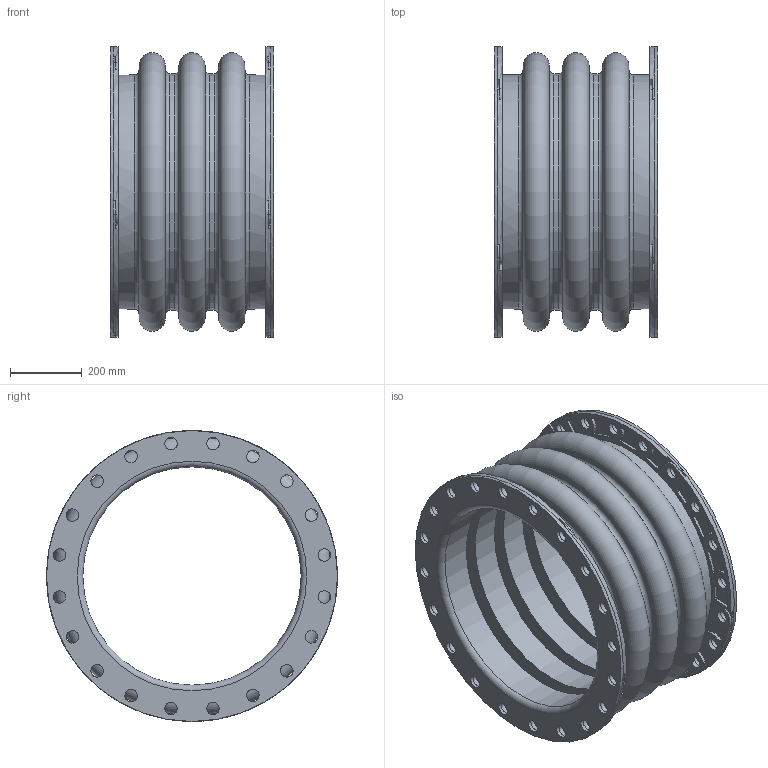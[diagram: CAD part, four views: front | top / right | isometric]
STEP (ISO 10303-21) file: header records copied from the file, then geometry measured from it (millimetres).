
FILE_DESCRIPTION(/* description */ (''),/* implementation_level */ '2;1');
FILE_NAME(/* name */ 'C:\001_Work\Designs\Mercer2014\MQInventor2014\RajR\500 Style\503\New folder\503 24IDx18FF.stp',/* time_stamp */ '2016-03-26T18:02:18-04:00',/* author */ ('rramoutar'),/* organization */ ('Mason Industries Inc.'),/* preprocessor_version */ 'ST-DEVELOPER v15.6',/* originating_system */ 'Autodesk Inventor 2015',/* authorisation */ '');
FILE_SCHEMA (('CONFIG_CONTROL_DESIGN'));
Length unit declared in the file: inch
Products named in the file (1): 503 24IDx18FF
Bounding box: 457.2 x 812.8 x 812.8 mm (x, y, z)
Volume: 41325351 mm3; surface area: 4080716.2 mm2
Topology: 1 solids, 1 shells, 638 faces, 1736 edges, 1140 vertices
Faces by surface type: cylinder 450, plane 142, torus 34, cone 12
Full cylindrical faces by diameter (mm): 34.925 x80, 609.6 x4, 654.05 x2, 660.4 x2, 812.8 x2
Entity records: 20726 total; most frequent: DIRECTION 3790, CARTESIAN_POINT 3701, ORIENTED_EDGE 3132, AXIS2_PLACEMENT_3D 1615, EDGE_CURVE 1566, VERTEX_POINT 1086, CIRCLE 976, EDGE_LOOP 876
